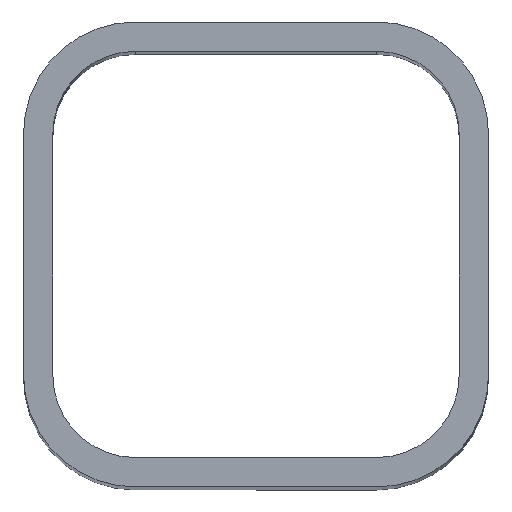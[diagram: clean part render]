
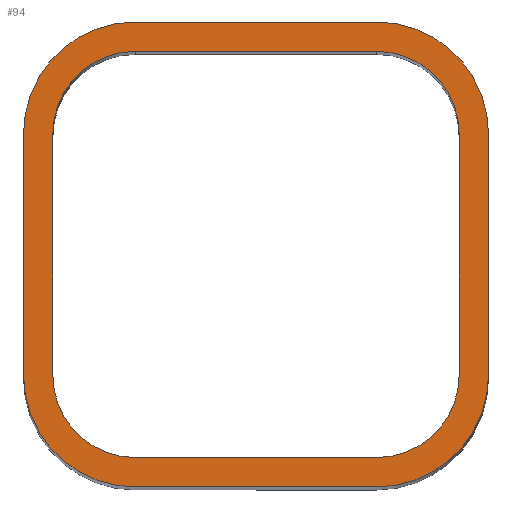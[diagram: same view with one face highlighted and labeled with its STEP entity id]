
A CAD part, top view. The second image highlights one B-rep face of the part: STEP entity #94.
In plain terms, the highlighted planar face has unit normal (0, 0, 1).
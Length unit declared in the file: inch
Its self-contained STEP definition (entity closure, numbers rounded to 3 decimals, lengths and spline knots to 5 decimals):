
#2 = DIRECTION ( 'NONE',  ( 1., 0., 0. ) ) ;
#3 = CARTESIAN_POINT ( 'NONE',  ( 0.20587, 0.20588, 0. ) ) ;
#4 = DIRECTION ( 'NONE',  ( 0., -1., 0. ) ) ;
#5 = DIRECTION ( 'NONE',  ( 0., 0., 1. ) ) ;
#6 = DIRECTION ( 'NONE',  ( 1., 0., 0. ) ) ;
#7 = CARTESIAN_POINT ( 'NONE',  ( 0.3465, -0.20588, 0. ) ) ;
#8 = CARTESIAN_POINT ( 'NONE',  ( 0.20587, 0.3465, 0. ) ) ;
#9 = DIRECTION ( 'NONE',  ( -1., 0., 0. ) ) ;
#11 = CARTESIAN_POINT ( 'NONE',  ( 0.20587, 0.3965, 0. ) ) ;
#20 = CARTESIAN_POINT ( 'NONE',  ( -0.20587, -0.20588, 0. ) ) ;
#25 = LINE ( 'NONE', #204, #27 ) ;
#27 = VECTOR ( 'NONE', #205, 39.37008 ) ;
#30 = CARTESIAN_POINT ( 'NONE',  ( 0.20587, -0.20588, 0. ) ) ;
#74 = CARTESIAN_POINT ( 'NONE',  ( 0.3465, -0.20588, 0. ) ) ;
#75 = DIRECTION ( 'NONE',  ( 0., 1., 0. ) ) ;
#77 = DIRECTION ( 'NONE',  ( 0., 0., 1. ) ) ;
#78 = DIRECTION ( 'NONE',  ( 1., 0., 0. ) ) ;
#94 = ADVANCED_FACE ( 'NONE', ( #247, #250 ), #419, .T. ) ;
#106 = VERTEX_POINT ( 'NONE', #120 ) ;
#107 = VERTEX_POINT ( 'NONE', #139 ) ;
#120 = CARTESIAN_POINT ( 'NONE',  ( 0.20587, -0.3465, 0. ) ) ;
#130 = EDGE_CURVE ( 'NONE', #602, #592, #239, .T. ) ;
#139 = CARTESIAN_POINT ( 'NONE',  ( -0.20588, -0.3465, 0. ) ) ;
#144 = AXIS2_PLACEMENT_3D ( 'NONE', #30, #77, #78 ) ;
#145 = AXIS2_PLACEMENT_3D ( 'NONE', #615, #618, #619 ) ;
#147 = AXIS2_PLACEMENT_3D ( 'NONE', #20, #206, #207 ) ;
#149 = AXIS2_PLACEMENT_3D ( 'NONE', #614, #622, #2 ) ;
#150 = AXIS2_PLACEMENT_3D ( 'NONE', #3, #5, #6 ) ;
#156 = AXIS2_PLACEMENT_3D ( 'NONE', #527, #289, #290 ) ;
#157 = AXIS2_PLACEMENT_3D ( 'NONE', #530, #286, #287 ) ;
#158 = AXIS2_PLACEMENT_3D ( 'NONE', #285, #293, #294 ) ;
#173 = VERTEX_POINT ( 'NONE', #263 ) ;
#174 = VERTEX_POINT ( 'NONE', #267 ) ;
#175 = VERTEX_POINT ( 'NONE', #266 ) ;
#176 = VERTEX_POINT ( 'NONE', #268 ) ;
#177 = VERTEX_POINT ( 'NONE', #262 ) ;
#178 = VERTEX_POINT ( 'NONE', #269 ) ;
#179 = VERTEX_POINT ( 'NONE', #265 ) ;
#188 = EDGE_CURVE ( 'NONE', #386, #179, #607, .T. ) ;
#189 = EDGE_CURVE ( 'NONE', #106, #386, #508, .T. ) ;
#196 = VECTOR ( 'NONE', #616, 39.37008 ) ;
#204 = CARTESIAN_POINT ( 'NONE',  ( -0.20588, -0.3465, 0. ) ) ;
#205 = DIRECTION ( 'NONE',  ( 1., 0., 0. ) ) ;
#206 = DIRECTION ( 'NONE',  ( 0., 0., 1. ) ) ;
#207 = DIRECTION ( 'NONE',  ( 1., 0., 0. ) ) ;
#217 = CIRCLE ( 'NONE', #147, 0.14063 ) ;
#239 = LINE ( 'NONE', #412, #241 ) ;
#241 = VECTOR ( 'NONE', #413, 39.37008 ) ;
#247 = FACE_OUTER_BOUND ( 'NONE', #465, .T. ) ;
#250 = FACE_BOUND ( 'NONE', #462, .T. ) ;
#262 = CARTESIAN_POINT ( 'NONE',  ( -0.20587, 0.3465, 0. ) ) ;
#263 = CARTESIAN_POINT ( 'NONE',  ( -0.3965, 0.20588, 0. ) ) ;
#265 = CARTESIAN_POINT ( 'NONE',  ( 0.3465, 0.20588, 0. ) ) ;
#266 = CARTESIAN_POINT ( 'NONE',  ( -0.3465, -0.20588, 0. ) ) ;
#267 = CARTESIAN_POINT ( 'NONE',  ( 0.20587, 0.3465, 0. ) ) ;
#268 = CARTESIAN_POINT ( 'NONE',  ( -0.3465, 0.20588, 0. ) ) ;
#269 = CARTESIAN_POINT ( 'NONE',  ( -0.20587, 0.3965, 0. ) ) ;
#283 = CARTESIAN_POINT ( 'NONE',  ( -0.20588, -0.3965, 0. ) ) ;
#284 = DIRECTION ( 'NONE',  ( 1., 0., 0. ) ) ;
#285 = CARTESIAN_POINT ( 'NONE',  ( 0.20587, 0.20588, 0. ) ) ;
#286 = DIRECTION ( 'NONE',  ( 0., 0., 1. ) ) ;
#287 = DIRECTION ( 'NONE',  ( 1., 0., 0. ) ) ;
#289 = DIRECTION ( 'NONE',  ( 0., 0., 1. ) ) ;
#290 = DIRECTION ( 'NONE',  ( 1., 0., 0. ) ) ;
#291 = CARTESIAN_POINT ( 'NONE',  ( -0.20588, -0.3965, 0. ) ) ;
#292 = CARTESIAN_POINT ( 'NONE',  ( 0.3965, 0.20588, 0. ) ) ;
#293 = DIRECTION ( 'NONE',  ( 0., 0., 1. ) ) ;
#294 = DIRECTION ( 'NONE',  ( 1., 0., 0. ) ) ;
#300 = CARTESIAN_POINT ( 'NONE',  ( -0.3965, -0.20588, 0. ) ) ;
#301 = CARTESIAN_POINT ( 'NONE',  ( 0.20587, -0.3965, 0. ) ) ;
#302 = CARTESIAN_POINT ( 'NONE',  ( 0.3965, -0.20588, 0. ) ) ;
#321 = EDGE_CURVE ( 'NONE', #385, #178, #606, .T. ) ;
#322 = EDGE_CURVE ( 'NONE', #178, #173, #553, .T. ) ;
#323 = EDGE_CURVE ( 'NONE', #173, #599, #521, .T. ) ;
#324 = EDGE_CURVE ( 'NONE', #177, #176, #556, .T. ) ;
#325 = EDGE_CURVE ( 'NONE', #176, #175, #555, .T. ) ;
#326 = EDGE_CURVE ( 'NONE', #179, #174, #560, .T. ) ;
#327 = EDGE_CURVE ( 'NONE', #174, #177, #554, .T. ) ;
#334 = ORIENTED_EDGE ( 'NONE', *, *, #440, .F. ) ;
#335 = ORIENTED_EDGE ( 'NONE', *, *, #327, .F. ) ;
#336 = ORIENTED_EDGE ( 'NONE', *, *, #188, .F. ) ;
#339 = ORIENTED_EDGE ( 'NONE', *, *, #490, .T. ) ;
#364 = ORIENTED_EDGE ( 'NONE', *, *, #323, .T. ) ;
#365 = ORIENTED_EDGE ( 'NONE', *, *, #439, .F. ) ;
#366 = ORIENTED_EDGE ( 'NONE', *, *, #130, .T. ) ;
#369 = ORIENTED_EDGE ( 'NONE', *, *, #324, .F. ) ;
#371 = ORIENTED_EDGE ( 'NONE', *, *, #488, .T. ) ;
#372 = ORIENTED_EDGE ( 'NONE', *, *, #489, .T. ) ;
#385 = VERTEX_POINT ( 'NONE', #11 ) ;
#386 = VERTEX_POINT ( 'NONE', #7 ) ;
#412 = CARTESIAN_POINT ( 'NONE',  ( 0.3965, -0.20588, 0. ) ) ;
#413 = DIRECTION ( 'NONE',  ( 0., 1., 0. ) ) ;
#418 = CARTESIAN_POINT ( 'NONE',  ( -0.20587, -0.20588, 0. ) ) ;
#419 = PLANE ( 'NONE',  #582 ) ;
#420 = DIRECTION ( 'NONE',  ( 0., 0., 1. ) ) ;
#421 = DIRECTION ( 'NONE',  ( 1., 0., 0. ) ) ;
#439 = EDGE_CURVE ( 'NONE', #107, #106, #25, .T. ) ;
#440 = EDGE_CURVE ( 'NONE', #175, #107, #217, .T. ) ;
#462 = EDGE_LOOP ( 'NONE', ( #572, #369, #335, #573, #336, #567, #365, #334 ) ) ;
#465 = EDGE_LOOP ( 'NONE', ( #371, #570, #372, #366, #339, #569, #574, #364 ) ) ;
#487 = EDGE_CURVE ( 'NONE', #600, #601, #545, .T. ) ;
#488 = EDGE_CURVE ( 'NONE', #599, #600, #547, .T. ) ;
#489 = EDGE_CURVE ( 'NONE', #601, #602, #548, .T. ) ;
#490 = EDGE_CURVE ( 'NONE', #592, #385, #549, .T. ) ;
#506 = VECTOR ( 'NONE', #75, 39.37008 ) ;
#508 = CIRCLE ( 'NONE', #144, 0.14063 ) ;
#515 = VECTOR ( 'NONE', #621, 39.37008 ) ;
#521 = LINE ( 'NONE', #620, #515 ) ;
#527 = CARTESIAN_POINT ( 'NONE',  ( 0.20587, -0.20588, 0. ) ) ;
#530 = CARTESIAN_POINT ( 'NONE',  ( -0.20587, -0.20588, 0. ) ) ;
#545 = LINE ( 'NONE', #283, #546 ) ;
#546 = VECTOR ( 'NONE', #284, 39.37008 ) ;
#547 = CIRCLE ( 'NONE', #157, 0.19063 ) ;
#548 = CIRCLE ( 'NONE', #156, 0.19063 ) ;
#549 = CIRCLE ( 'NONE', #158, 0.19063 ) ;
#551 = VECTOR ( 'NONE', #9, 39.37008 ) ;
#553 = CIRCLE ( 'NONE', #145, 0.19063 ) ;
#554 = LINE ( 'NONE', #8, #551 ) ;
#555 = LINE ( 'NONE', #617, #557 ) ;
#556 = CIRCLE ( 'NONE', #149, 0.14063 ) ;
#557 = VECTOR ( 'NONE', #4, 39.37008 ) ;
#560 = CIRCLE ( 'NONE', #150, 0.14063 ) ;
#567 = ORIENTED_EDGE ( 'NONE', *, *, #189, .F. ) ;
#569 = ORIENTED_EDGE ( 'NONE', *, *, #321, .T. ) ;
#570 = ORIENTED_EDGE ( 'NONE', *, *, #487, .T. ) ;
#572 = ORIENTED_EDGE ( 'NONE', *, *, #325, .F. ) ;
#573 = ORIENTED_EDGE ( 'NONE', *, *, #326, .F. ) ;
#574 = ORIENTED_EDGE ( 'NONE', *, *, #322, .T. ) ;
#582 = AXIS2_PLACEMENT_3D ( 'NONE', #418, #420, #421 ) ;
#592 = VERTEX_POINT ( 'NONE', #292 ) ;
#599 = VERTEX_POINT ( 'NONE', #300 ) ;
#600 = VERTEX_POINT ( 'NONE', #291 ) ;
#601 = VERTEX_POINT ( 'NONE', #301 ) ;
#602 = VERTEX_POINT ( 'NONE', #302 ) ;
#606 = LINE ( 'NONE', #613, #196 ) ;
#607 = LINE ( 'NONE', #74, #506 ) ;
#613 = CARTESIAN_POINT ( 'NONE',  ( 0.20587, 0.3965, 0. ) ) ;
#614 = CARTESIAN_POINT ( 'NONE',  ( -0.20587, 0.20588, 0. ) ) ;
#615 = CARTESIAN_POINT ( 'NONE',  ( -0.20587, 0.20588, 0. ) ) ;
#616 = DIRECTION ( 'NONE',  ( -1., 0., 0. ) ) ;
#617 = CARTESIAN_POINT ( 'NONE',  ( -0.3465, 0.20588, 0. ) ) ;
#618 = DIRECTION ( 'NONE',  ( 0., 0., 1. ) ) ;
#619 = DIRECTION ( 'NONE',  ( 1., 0., 0. ) ) ;
#620 = CARTESIAN_POINT ( 'NONE',  ( -0.3965, 0.20588, 0. ) ) ;
#621 = DIRECTION ( 'NONE',  ( 0., -1., 0. ) ) ;
#622 = DIRECTION ( 'NONE',  ( 0., 0., 1. ) ) ;
